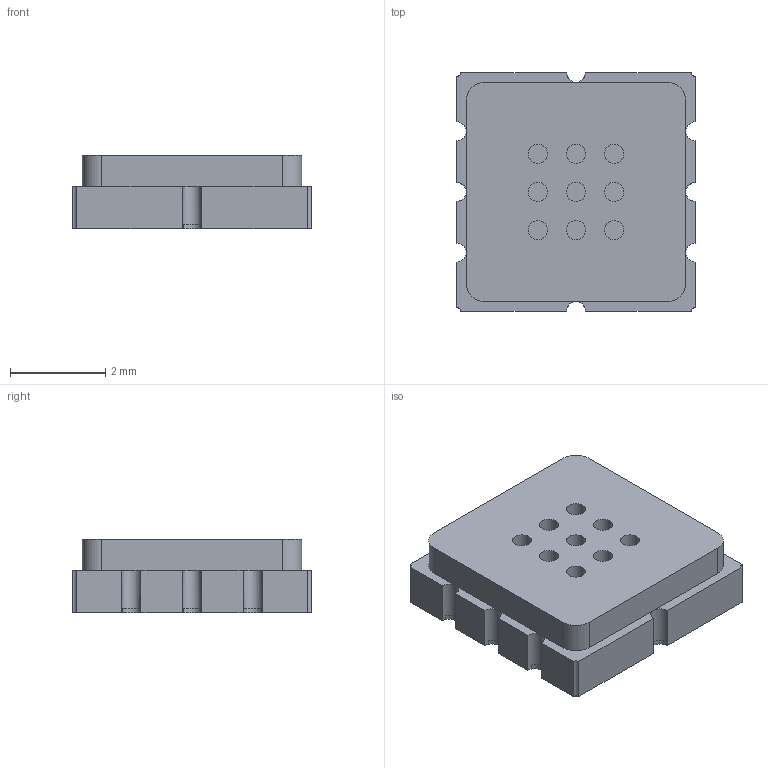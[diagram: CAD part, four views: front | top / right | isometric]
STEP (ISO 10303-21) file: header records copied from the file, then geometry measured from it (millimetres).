
FILE_DESCRIPTION(/* description */ ('','CAx-IF Rec.Pracs.---Representation and Presentation of Product Manufacturing Information (PMI)---4.0---2014-10-13'),/* implementation_level */ '2;1');
FILE_NAME(/* name */ 'GM-102B v4.step',/* time_stamp */ '2025-02-14T17:00:54+01:00',/* author */ (''),/* organization */ (''),/* preprocessor_version */ 'ST-DEVELOPER v20',/* originating_system */ 'Autodesk Translation Framework v13.20.0.188',/* authorisation */ '');
FILE_SCHEMA (('AP242_MANAGED_MODEL_BASED_3D_ENGINEERING_MIM_LF { 1 0 10303 442 1 1 4 }'));
Length unit declared in the file: millimetre
Products named in the file (1): GM-102B
Bounding box: 5 x 5 x 1.55 mm (x, y, z)
Volume: 35.1 mm3; surface area: 145.7 mm2
Topology: 10 solids, 10 shells, 168 faces, 417 edges, 278 vertices
Faces by surface type: plane 135, cylinder 33
Full cylindrical faces by diameter (mm): 0.4 x9
Entity records: 5052 total; most frequent: CARTESIAN_POINT 864, DIRECTION 837, ORIENTED_EDGE 834, EDGE_CURVE 417, LINE 335, VECTOR 335, VERTEX_POINT 278, AXIS2_PLACEMENT_3D 251
